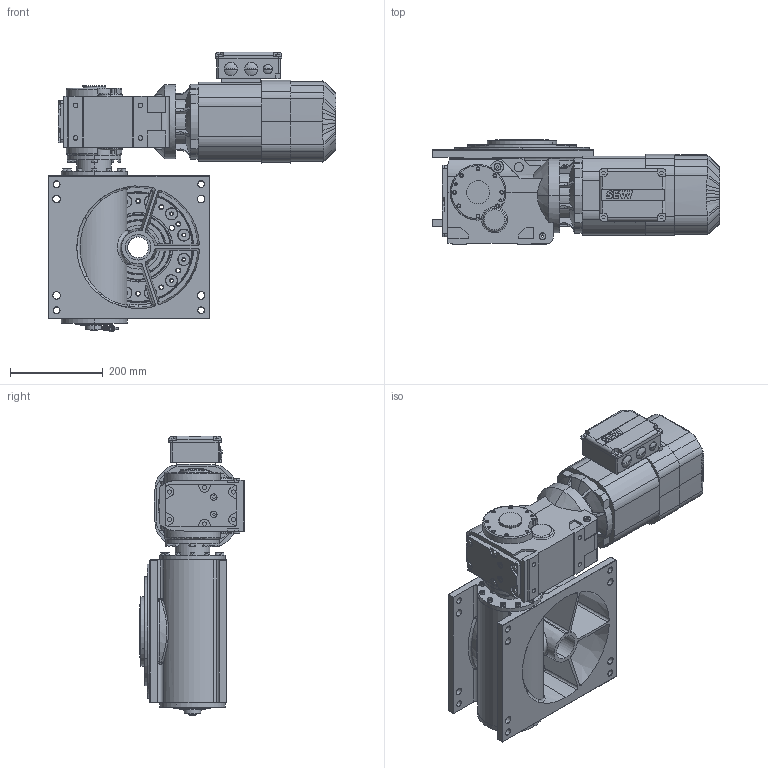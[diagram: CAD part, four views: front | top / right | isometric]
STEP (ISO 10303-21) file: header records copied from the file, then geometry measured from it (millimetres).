
FILE_DESCRIPTION (( 'STEP AP214' ), '1' );
FILE_NAME ('M235_SEW_KA47DRE90L4BE5_D1_12 .STEP', '2020-06-17T05:23:58', ( '' ), ( '' ), 'SwSTEP 2.0', 'SolidWorks 2020', '' );
FILE_SCHEMA (( 'AUTOMOTIVE_DESIGN' ));
Length unit declared in the file: millimetre
Products named in the file (1): M235_SEW_KA47DRE90L4BE5_D1_12 
Bounding box: 620.5 x 226 x 603.46 mm (x, y, z)
Surface area: 1264055.3 mm2 (no closed solid volume)
Topology: 0 solids, 91 shells, 1727 faces, 5192 edges, 3465 vertices
Faces by surface type: plane 666, cylinder 551, cone 265, bspline 134, torus 89, sphere 22
Entity records: 90909 total; most frequent: CARTESIAN_POINT 26156, DIRECTION 9675, ORIENTED_EDGE 8864, EDGE_CURVE 5154, AXIS2_PLACEMENT_3D 3567, VERTEX_POINT 3465, VECTOR 2541, LINE 2541
